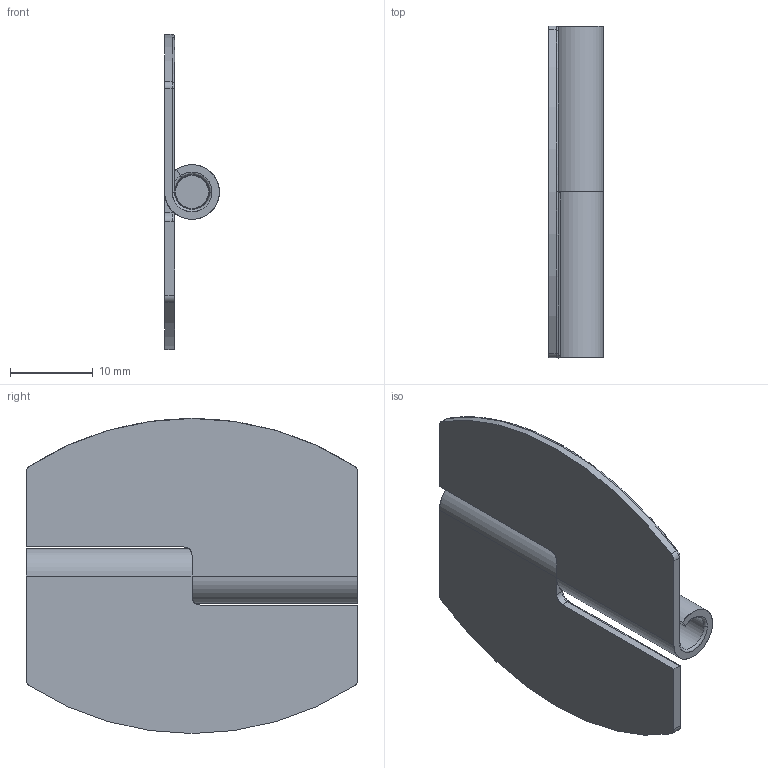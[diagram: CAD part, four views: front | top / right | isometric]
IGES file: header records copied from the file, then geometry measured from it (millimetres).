
Start section: SolidWorks IGES FILE using analytic representation for surfaces
Global section: file name: E:\妙子\仕事\solidworks\ヒンジ20130813\DEH-38\DEH-38-3R\DEH-38-3R-1.IGS; native system: SolidWorks 2003 by SolidWorks Corporation; preprocessor: Version 5.3; author: 妙子,,; organization: 11; date: 130814.154526; units: millimetre
Bounding box: 6.6 x 40 x 38 mm (x, y, z)
Surface area: 4166.4 mm2 (no closed solid volume)
Topology: 0 solids, 0 shells, 45 faces, 571 edges, 571 vertices
Faces by surface type: bspline 24, revolution 21
